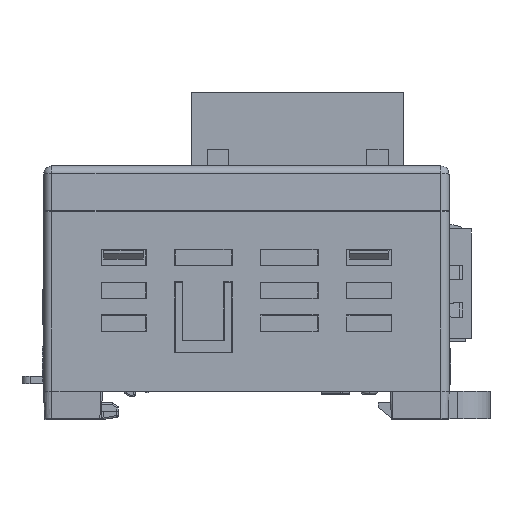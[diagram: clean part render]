
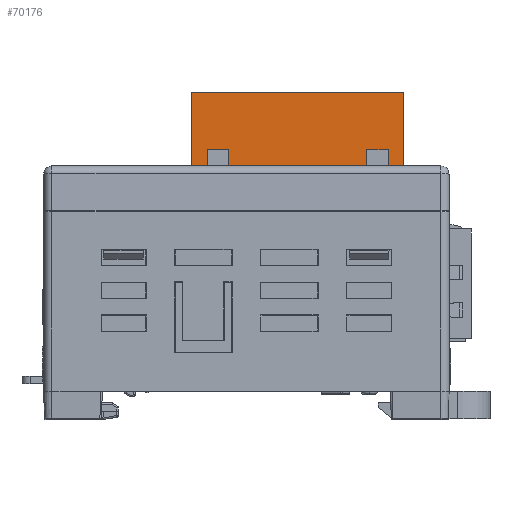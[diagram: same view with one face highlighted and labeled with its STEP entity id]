
A CAD part, left-side view. The second image highlights one B-rep face of the part: STEP entity #70176.
In plain terms, the highlighted planar face has unit normal (-1, 0, 0).
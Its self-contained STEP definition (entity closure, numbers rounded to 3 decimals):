
#2163=DIRECTION('',(0.,1.,0.));
#2164=VECTOR('',#2163,1.);
#2165=CARTESIAN_POINT('',(7.53,-19.21,27.5));
#2166=LINE('',#2165,#2164);
#2179=DIRECTION('',(0.,1.,0.));
#2180=VECTOR('',#2179,1.);
#2181=CARTESIAN_POINT('',(7.53,-13.26,27.5));
#2182=LINE('',#2181,#2180);
#2195=DIRECTION('',(0.,1.,0.));
#2196=VECTOR('',#2195,1.);
#2197=CARTESIAN_POINT('',(7.53,-6.76,27.5));
#2198=LINE('',#2197,#2196);
#2211=DIRECTION('',(0.,1.,0.));
#2212=VECTOR('',#2211,1.);
#2213=CARTESIAN_POINT('',(7.53,-0.26,27.5));
#2214=LINE('',#2213,#2212);
#2227=DIRECTION('',(0.,1.,0.));
#2228=VECTOR('',#2227,1.);
#2229=CARTESIAN_POINT('',(7.53,5.69,27.5));
#2230=LINE('',#2229,#2228);
#3207=DIRECTION('',(0.,-1.,0.));
#3208=VECTOR('',#3207,0.9);
#3209=CARTESIAN_POINT('',(7.53,-17.31,28.));
#3210=LINE('',#3209,#3208);
#3211=DIRECTION('',(0.,-1.,0.));
#3212=VECTOR('',#3211,2.6);
#3213=CARTESIAN_POINT('',(7.53,-14.71,33.));
#3214=LINE('',#3213,#3212);
#3215=DIRECTION('',(0.,0.,1.));
#3216=VECTOR('',#3215,5.);
#3217=CARTESIAN_POINT('',(7.53,-14.71,28.));
#3218=LINE('',#3217,#3216);
#3219=DIRECTION('',(0.,-1.,0.));
#3220=VECTOR('',#3219,1.45);
#3221=CARTESIAN_POINT('',(7.53,-13.26,28.));
#3222=LINE('',#3221,#3220);
#3223=DIRECTION('',(0.,-1.,0.));
#3224=VECTOR('',#3223,5.5);
#3225=CARTESIAN_POINT('',(7.53,-6.76,28.));
#3226=LINE('',#3225,#3224);
#3227=DIRECTION('',(0.,-1.,0.));
#3228=VECTOR('',#3227,5.5);
#3229=CARTESIAN_POINT('',(7.53,-0.26,28.));
#3230=LINE('',#3229,#3228);
#3231=DIRECTION('',(0.,-1.,0.));
#3232=VECTOR('',#3231,1.45);
#3233=CARTESIAN_POINT('',(7.53,2.19,28.));
#3234=LINE('',#3233,#3232);
#3235=DIRECTION('',(0.,-1.,0.));
#3236=VECTOR('',#3235,0.9);
#3237=CARTESIAN_POINT('',(7.53,5.69,28.));
#3238=LINE('',#3237,#3236);
#3247=DIRECTION('',(0.,0.,1.));
#3248=VECTOR('',#3247,0.5);
#3249=CARTESIAN_POINT('',(7.53,-18.21,27.5));
#3250=LINE('',#3249,#3248);
#3263=DIRECTION('',(0.,0.,-1.));
#3264=VECTOR('',#3263,12.5);
#3265=CARTESIAN_POINT('',(7.53,-19.21,40.));
#3266=LINE('',#3265,#3264);
#3395=DIRECTION('',(0.,0.,1.));
#3396=VECTOR('',#3395,12.5);
#3397=CARTESIAN_POINT('',(7.53,6.69,27.5));
#3398=LINE('',#3397,#3396);
#5145=DIRECTION('',(0.,0.,-1.));
#5146=VECTOR('',#5145,0.5);
#5147=CARTESIAN_POINT('',(7.53,5.69,28.));
#5148=LINE('',#5147,#5146);
#5413=DIRECTION('',(0.,0.,-1.));
#5414=VECTOR('',#5413,5.);
#5415=CARTESIAN_POINT('',(7.53,-17.31,33.));
#5416=LINE('',#5415,#5414);
#5749=DIRECTION('',(0.,0.,1.));
#5750=VECTOR('',#5749,5.);
#5751=CARTESIAN_POINT('',(7.53,4.79,28.));
#5752=LINE('',#5751,#5750);
#5769=DIRECTION('',(0.,-1.,0.));
#5770=VECTOR('',#5769,2.6);
#5771=CARTESIAN_POINT('',(7.53,4.79,33.));
#5772=LINE('',#5771,#5770);
#5777=DIRECTION('',(0.,0.,-1.));
#5778=VECTOR('',#5777,5.);
#5779=CARTESIAN_POINT('',(7.53,2.19,33.));
#5780=LINE('',#5779,#5778);
#42521=DIRECTION('',(0.,-1.,0.));
#42522=VECTOR('',#42521,25.9);
#42523=CARTESIAN_POINT('',(7.53,6.69,40.));
#42524=LINE('',#42523,#42522);
#42781=DIRECTION('',(0.,0.,-1.));
#42782=VECTOR('',#42781,0.5);
#42783=CARTESIAN_POINT('',(7.53,-13.26,28.));
#42784=LINE('',#42783,#42782);
#42805=DIRECTION('',(0.,0.,1.));
#42806=VECTOR('',#42805,0.5);
#42807=CARTESIAN_POINT('',(7.53,-12.26,27.5));
#42808=LINE('',#42807,#42806);
#42809=DIRECTION('',(0.,0.,-1.));
#42810=VECTOR('',#42809,0.5);
#42811=CARTESIAN_POINT('',(7.53,-6.76,28.));
#42812=LINE('',#42811,#42810);
#42833=DIRECTION('',(0.,0.,1.));
#42834=VECTOR('',#42833,0.5);
#42835=CARTESIAN_POINT('',(7.53,-5.76,27.5));
#42836=LINE('',#42835,#42834);
#42837=DIRECTION('',(0.,0.,-1.));
#42838=VECTOR('',#42837,0.5);
#42839=CARTESIAN_POINT('',(7.53,-0.26,28.));
#42840=LINE('',#42839,#42838);
#42861=DIRECTION('',(0.,0.,1.));
#42862=VECTOR('',#42861,0.5);
#42863=CARTESIAN_POINT('',(7.53,0.74,27.5));
#42864=LINE('',#42863,#42862);
#58521=CARTESIAN_POINT('',(7.53,-14.71,28.));
#58523=VERTEX_POINT('',#58521);
#58526=CARTESIAN_POINT('',(7.53,-17.31,28.));
#58527=VERTEX_POINT('',#58526);
#58528=CARTESIAN_POINT('',(7.53,-18.21,28.));
#58529=VERTEX_POINT('',#58528);
#58606=CARTESIAN_POINT('',(7.53,5.69,28.));
#58607=VERTEX_POINT('',#58606);
#58608=CARTESIAN_POINT('',(7.53,4.79,28.));
#58609=VERTEX_POINT('',#58608);
#58614=CARTESIAN_POINT('',(7.53,2.19,28.));
#58615=VERTEX_POINT('',#58614);
#58616=CARTESIAN_POINT('',(7.53,0.74,28.));
#58617=VERTEX_POINT('',#58616);
#58622=CARTESIAN_POINT('',(7.53,-0.26,28.));
#58623=VERTEX_POINT('',#58622);
#58624=CARTESIAN_POINT('',(7.53,-5.76,28.));
#58625=VERTEX_POINT('',#58624);
#58630=CARTESIAN_POINT('',(7.53,-6.76,28.));
#58631=VERTEX_POINT('',#58630);
#58632=CARTESIAN_POINT('',(7.53,-12.26,28.));
#58633=VERTEX_POINT('',#58632);
#58638=CARTESIAN_POINT('',(7.53,-13.26,28.));
#58639=VERTEX_POINT('',#58638);
#59642=CARTESIAN_POINT('',(7.53,-17.31,33.));
#59643=VERTEX_POINT('',#59642);
#59644=CARTESIAN_POINT('',(7.53,-14.71,33.));
#59645=VERTEX_POINT('',#59644);
#59646=CARTESIAN_POINT('',(7.53,2.19,33.));
#59647=VERTEX_POINT('',#59646);
#59648=CARTESIAN_POINT('',(7.53,4.79,33.));
#59649=VERTEX_POINT('',#59648);
#59650=CARTESIAN_POINT('',(7.53,6.69,40.));
#59651=CARTESIAN_POINT('',(7.53,-19.21,40.));
#59652=VERTEX_POINT('',#59650);
#59653=VERTEX_POINT('',#59651);
#66356=CARTESIAN_POINT('',(7.53,-19.21,27.5));
#66357=CARTESIAN_POINT('',(7.53,-18.21,27.5));
#66358=VERTEX_POINT('',#66356);
#66359=VERTEX_POINT('',#66357);
#66360=CARTESIAN_POINT('',(7.53,-13.26,27.5));
#66361=CARTESIAN_POINT('',(7.53,-12.26,27.5));
#66362=VERTEX_POINT('',#66360);
#66363=VERTEX_POINT('',#66361);
#66364=CARTESIAN_POINT('',(7.53,-6.76,27.5));
#66365=CARTESIAN_POINT('',(7.53,-5.76,27.5));
#66366=VERTEX_POINT('',#66364);
#66367=VERTEX_POINT('',#66365);
#66368=CARTESIAN_POINT('',(7.53,-0.26,27.5));
#66369=CARTESIAN_POINT('',(7.53,0.74,27.5));
#66370=VERTEX_POINT('',#66368);
#66371=VERTEX_POINT('',#66369);
#66372=CARTESIAN_POINT('',(7.53,5.69,27.5));
#66373=CARTESIAN_POINT('',(7.53,6.69,27.5));
#66374=VERTEX_POINT('',#66372);
#66375=VERTEX_POINT('',#66373);
#70125=CARTESIAN_POINT('',(7.53,-6.26,33.5));
#70126=DIRECTION('',(1.,0.,0.));
#70127=DIRECTION('',(0.,0.,-1.));
#70128=AXIS2_PLACEMENT_3D('',#70125,#70126,#70127);
#70129=PLANE('',#70128);
#70130=ORIENTED_EDGE('',*,*,#69013,.T.);
#70132=ORIENTED_EDGE('',*,*,#70131,.T.);
#70133=ORIENTED_EDGE('',*,*,#69450,.F.);
#70135=ORIENTED_EDGE('',*,*,#70134,.F.);
#70137=ORIENTED_EDGE('',*,*,#70136,.F.);
#70138=ORIENTED_EDGE('',*,*,#70107,.F.);
#70139=ORIENTED_EDGE('',*,*,#69562,.F.);
#70141=ORIENTED_EDGE('',*,*,#70140,.T.);
#70142=ORIENTED_EDGE('',*,*,#69023,.T.);
#70144=ORIENTED_EDGE('',*,*,#70143,.T.);
#70145=ORIENTED_EDGE('',*,*,#69554,.F.);
#70147=ORIENTED_EDGE('',*,*,#70146,.T.);
#70148=ORIENTED_EDGE('',*,*,#69033,.T.);
#70150=ORIENTED_EDGE('',*,*,#70149,.T.);
#70151=ORIENTED_EDGE('',*,*,#69546,.F.);
#70153=ORIENTED_EDGE('',*,*,#70152,.T.);
#70154=ORIENTED_EDGE('',*,*,#69043,.T.);
#70156=ORIENTED_EDGE('',*,*,#70155,.T.);
#70157=ORIENTED_EDGE('',*,*,#69538,.F.);
#70159=ORIENTED_EDGE('',*,*,#70158,.F.);
#70161=ORIENTED_EDGE('',*,*,#70160,.F.);
#70163=ORIENTED_EDGE('',*,*,#70162,.F.);
#70164=ORIENTED_EDGE('',*,*,#69530,.F.);
#70166=ORIENTED_EDGE('',*,*,#70165,.T.);
#70167=ORIENTED_EDGE('',*,*,#69053,.T.);
#70169=ORIENTED_EDGE('',*,*,#70168,.T.);
#70171=ORIENTED_EDGE('',*,*,#70170,.T.);
#70173=ORIENTED_EDGE('',*,*,#70172,.T.);
#70174=EDGE_LOOP('',(#70130,#70132,#70133,#70135,#70137,#70138,#70139,#70141,
#70142,#70144,#70145,#70147,#70148,#70150,#70151,#70153,#70154,#70156,#70157,
#70159,#70161,#70163,#70164,#70166,#70167,#70169,#70171,#70173));
#70175=FACE_OUTER_BOUND('',#70174,.F.);
#70176=ADVANCED_FACE('',(#70175),#70129,.F.);
#69013=EDGE_CURVE('',#66358,#66359,#2166,.T.);
#69023=EDGE_CURVE('',#66362,#66363,#2182,.T.);
#69033=EDGE_CURVE('',#66366,#66367,#2198,.T.);
#69043=EDGE_CURVE('',#66370,#66371,#2214,.T.);
#69053=EDGE_CURVE('',#66374,#66375,#2230,.T.);
#69450=EDGE_CURVE('',#58527,#58529,#3210,.T.);
#69530=EDGE_CURVE('',#58607,#58609,#3238,.T.);
#69538=EDGE_CURVE('',#58615,#58617,#3234,.T.);
#69546=EDGE_CURVE('',#58623,#58625,#3230,.T.);
#69554=EDGE_CURVE('',#58631,#58633,#3226,.T.);
#69562=EDGE_CURVE('',#58639,#58523,#3222,.T.);
#70107=EDGE_CURVE('',#58523,#59645,#3218,.T.);
#70131=EDGE_CURVE('',#66359,#58529,#3250,.T.);
#70134=EDGE_CURVE('',#59643,#58527,#5416,.T.);
#70136=EDGE_CURVE('',#59645,#59643,#3214,.T.);
#70140=EDGE_CURVE('',#58639,#66362,#42784,.T.);
#70143=EDGE_CURVE('',#66363,#58633,#42808,.T.);
#70146=EDGE_CURVE('',#58631,#66366,#42812,.T.);
#70149=EDGE_CURVE('',#66367,#58625,#42836,.T.);
#70152=EDGE_CURVE('',#58623,#66370,#42840,.T.);
#70155=EDGE_CURVE('',#66371,#58617,#42864,.T.);
#70158=EDGE_CURVE('',#59647,#58615,#5780,.T.);
#70160=EDGE_CURVE('',#59649,#59647,#5772,.T.);
#70162=EDGE_CURVE('',#58609,#59649,#5752,.T.);
#70165=EDGE_CURVE('',#58607,#66374,#5148,.T.);
#70168=EDGE_CURVE('',#66375,#59652,#3398,.T.);
#70170=EDGE_CURVE('',#59652,#59653,#42524,.T.);
#70172=EDGE_CURVE('',#59653,#66358,#3266,.T.);
